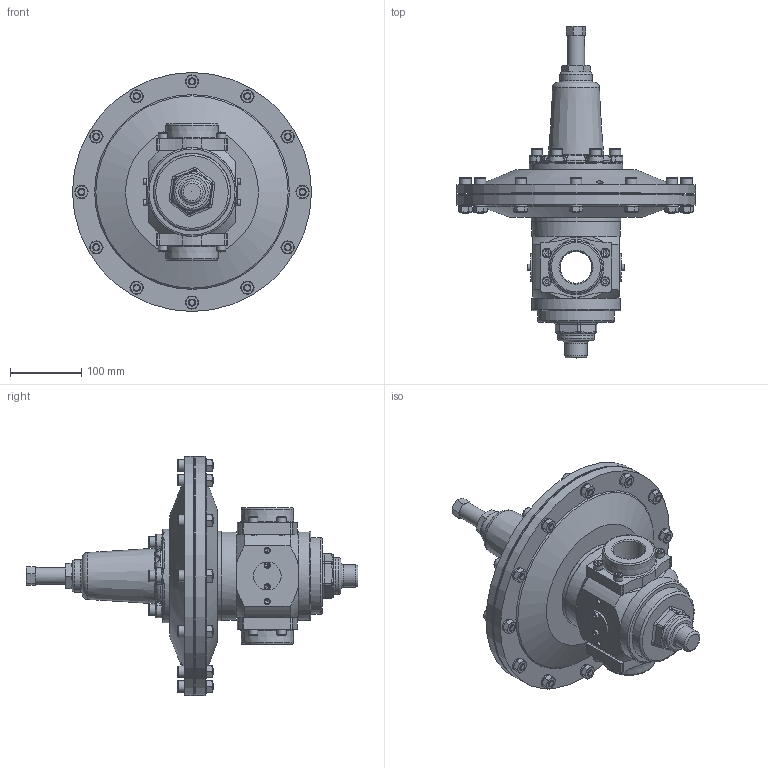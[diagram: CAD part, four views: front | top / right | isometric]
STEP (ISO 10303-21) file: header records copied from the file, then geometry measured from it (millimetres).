
FILE_DESCRIPTION((''),'2;1');
FILE_NAME('\\PC050\Users\MLazzarato\Desktop\NUOVO LISTINO\Materiale Aircom\STEP\V190\V190_8.stp','2016-12-13T13:12:53',('lucapalazzi'),(''),'Autodesk Inventor 2010','Autodesk Inventor 2010','');
FILE_SCHEMA(('AUTOMOTIVE_DESIGN { 1 0 10303 214 1 1 1 1 }'));
Length unit declared in the file: millimetre
Products named in the file (55): C01214; P20598; P34088; P32012010304; C22078; P22048; C22078 - O Ring R28; P45016; P41040; P43082; P23052; P64006; P23038; P44035; P64013; P32023; P21037; P43075010304; UNI 5589 M24 x 2; P37012; 0DC20614; 0DC20614_1; 0DC20614_2; 0DC20614_3; 0DC20614_4; 0DC20614_5; 0DC20616; 0DC20616_1; 0DC20616_2; 0DC20616_3; 0DC20616_4; 0DC20616_5; 0DC20616_6; 0DC20616_7; 0DC20616_8; 0DC20616_9; 0DC20616_10; 0DC20616_11; 0DQ10700; 0DM10600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
Assembly tree (84 placements, depth 3):
  C01214
    P20598
    P34088
    P32012010304
    C22078
      P22048
      C22078 - O Ring R28
    P45016
    P41040
    P43082
    P23052
    P64006
    P23038
    P44035
    P64013
    P32023
    P21037
    P43075010304
    UNI 5589 M24 x 2
    P37012  x2
    0DC20614
    0DC20614_1
    0DC20614_2
    0DC20614_3
    0DC20614_4
    0DC20614_5
    0DC20616
    0DC20616_1
    0DC20616_2
    0DC20616_3
    0DC20616_4
    0DC20616_5
    0DC20616_6
    0DC20616_7
    0DC20616_8
    0DC20616_9
    0DC20616_10
    0DC20616_11
    0DQ10700  x12
    0DM10600  x12
    0DC20516
    0DC20516_1
    0DC20516_2
    0DC20516_3
    0DC20516_4
    0DC20516_5
    0DC20516_6
    0DC20516_7
    0DM20500  x8
    P37096
    P37096_1
    0DC50309
    0DC50309_1
    0DC50309_2
    0DC50309_3
Bounding box: 336 x 466.7 x 336 mm (x, y, z)
Volume: 2075451.3 mm3; surface area: 816022.6 mm2
Topology: 75 solids, 75 shells, 1577 faces, 3734 edges, 2296 vertices
Faces by surface type: plane 555, cone 387, cylinder 326, bspline 239, torus 70
Full cylindrical faces by diameter (mm): 4.917 x2, 5 x4, 6.5 x2, 6.647 x6, 8 x8, 8.5 x4, 10 x21, 10.5 x12, 11 x6, 13 x8, 16 x18, 17.8 x2, 18 x13, 21 x1, 24 x1, 30 x1, 31 x1, 39 x2, 45 x1, 50 x2, 51.5 x1, 54 x1, 59.7 x1, 61.5 x2, 67.2 x2, 90 x1, 96.8 x1, 106.834 x1, 108 x1, 109 x1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
Entity records: 40231 total; most frequent: CARTESIAN_POINT 14974, DIRECTION 4854, ORIENTED_EDGE 4600, EDGE_CURVE 2300, AXIS2_PLACEMENT_3D 2061, EDGE_LOOP 1693, VERTEX_POINT 1611, FACE_OUTER_BOUND 1156
